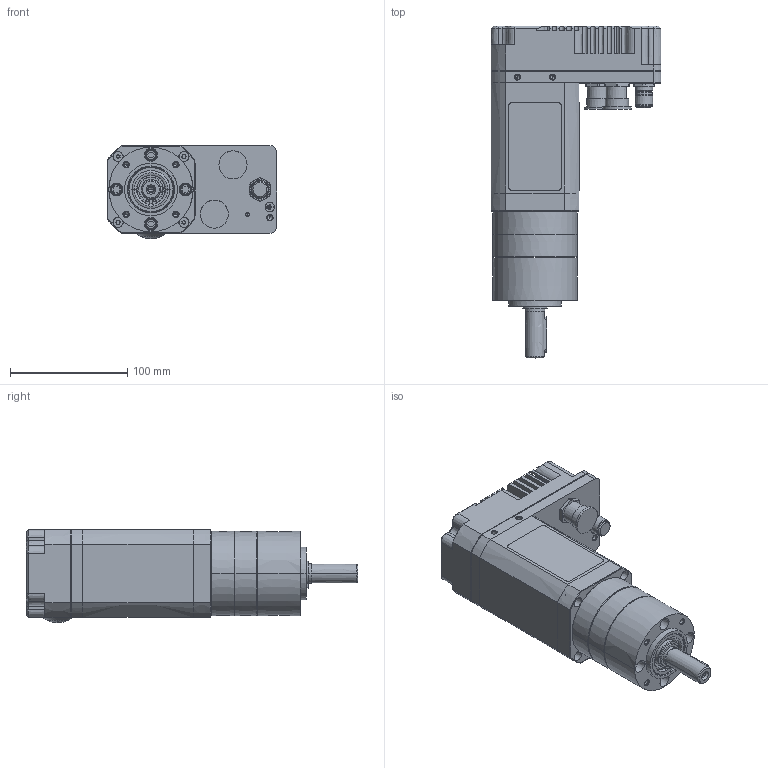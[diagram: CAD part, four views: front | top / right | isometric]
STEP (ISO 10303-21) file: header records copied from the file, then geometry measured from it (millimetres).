
FILE_DESCRIPTION((''),'2;1');
FILE_NAME('8036D_2STAGES','2018-08-29T',('ALECMA1'),('CROUZET-AUTOMATISMES'),'CREO PARAMETRIC BY PTC INC, 2017170','CREO PARAMETRIC BY PTC INC, 2017170','');
FILE_SCHEMA(('AP203_CONFIGURATION_CONTROLLED_3D_DESIGN_OF_MECHANICAL_PARTS_AND_ASSEMBLIES_MIM_LF { 1 0 10303 403 2 1 2 }'));
Products named in the file (1): 8036D_2STAGES
Bounding box: 145 x 283.4 x 79.7 mm (x, y, z)
Surface area: 144416.6 mm2 (no closed solid volume)
Topology: 0 solids, 0 shells, 690 faces, 3548 edges, 3508 vertices
Faces by surface type: bspline 666, torus 20, sphere 4
Entity records: 68246 total; most frequent: CARTESIAN_POINT 30054, DIRECTION 5615, TRIMMED_CURVE 4770, VECTOR 3998, LINE 3998, DEFINITIONAL_REPRESENTATION 3488, PCURVE 3488, COMPOSITE_CURVE_SEGMENT 3488
